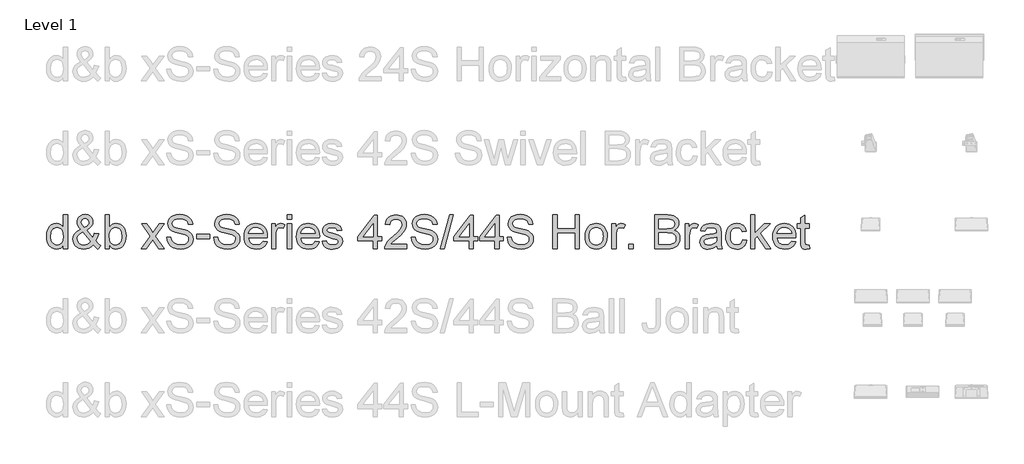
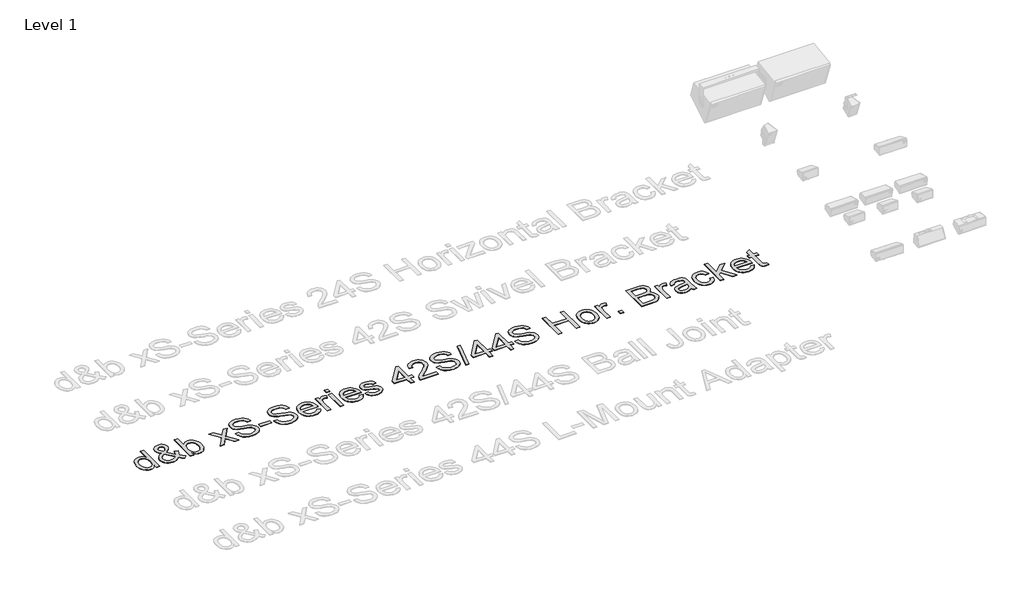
# One storey, part 29 of 55: 1 proxy.
"""IFC4 building model written with IfcOpenShell, lengths in millimetres."""

from ifc_helpers import new_model, si_unit, origin, origin_with_axes, place, context, project, spatial, polyline, outline, extrude, element, save

model = new_model("IFC4")

# Units and contexts
model_context = context("Model", 3, world=origin())
ifc_project = project(units=[si_unit("LENGTHUNIT", "METRE", prefix="MILLI")], contexts=[model_context])

# Site, building, storey
site = spatial("IfcSite", under=ifc_project)
building = spatial("IfcBuilding", under=site)
storey = spatial("IfcBuildingStorey", under=building, Name="Level 1", Elevation=0.0)

# Proxy
placement = place(None, origin())
element("IfcBuildingElementProxy", 1, Name="400mm Arial", ObjectType="400mm Arial", at=placement, inside=storey, context=model_context, shape_type="SweptSolid", body=[
    extrude(outline(polyline([(-20879.8211974, -6648.6945164), (-20879.8211974, -6601.3113154), (-20894.8491769, -6624.7883181), (-20913.0532043, -6641.5576057), (-20934.4332796, -6651.6191783), (-20958.9894028, -6654.9730358), (-20991.4611202, -6650.1169935), (-21021.1859854, -6635.5488665), (-21046.3491139, -6612.2864616), (-21065.1356211, -6581.3475858), (-21076.8342686, -6543.9830379), (-21080.7338177, -6501.4436165), (-21077.1408369, -6459.4314926), (-21066.3618944, -6421.4905962), (-21048.4092531, -6389.7791682), (-21023.2951755, -6366.4554497), (-20992.9203855, -6352.1080519), (-20959.1856065, -6347.325586), (-20934.6110892, -6350.7468885), (-20912.8815261, -6361.0107962), (-20894.4629008, -6376.7438829), (-20879.8211974, -6396.5727224), (-20879.8211974, -6246.8692758), (-20829.5930424, -6246.8692758), (-20829.5930424, -6648.6945164), (-20879.8211974, -6648.6945164)]), holes=[polyline([(-21030.5056627, -6501.2474128), (-21029.089317, -6525.6042665), (-21024.8402799, -6546.6808392), (-21017.7585515, -6564.4771307), (-21007.8441318, -6578.9931411), (-20983.1469871, -6598.3069458), (-20969.2717046, -6603.135397), (-20954.3786151, -6604.7448807), (-20939.415015, -6603.2089734), (-20925.6225058, -6598.6012514), (-20901.5507606, -6580.1703635), (-20892.0440767, -6566.2613584), (-20885.2535882, -6549.1088603), (-20879.8211974, -6505.0733855), (-20885.3516901, -6456.9298951), (-20892.2648059, -6438.3947739), (-20901.9431681, -6423.5507354), (-20913.6448812, -6412.1770504), (-20926.6280499, -6404.0529896), (-20940.8926743, -6399.1785532), (-20956.4387543, -6397.5537411), (-20971.6261493, -6399.1141738), (-20985.5014319, -6403.7954722), (-20998.064602, -6411.5976362), (-21009.3156597, -6422.5206658), (-21018.586286, -6436.8036843), (-21025.2081619, -6454.6858149), (-21030.5056627, -6501.2474128)])]), origin_with_axes(), (0.0, 0.0, 1.0), 5.0),
    extrude(outline(polyline([(-20523.809528, -6599.0549725), (-20549.3405384, -6623.5191252), (-20577.0788409, -6640.99352), (-20607.0734862, -6651.4781569), (-20639.3735254, -6654.9730358), (-20668.6814577, -6652.3855991), (-20694.8010793, -6644.623289), (-20717.7323904, -6631.6861055), (-20737.4753908, -6613.5740486), (-20750.308341, -6596.2038871), (-20759.4747341, -6577.8404442), (-20764.9745699, -6558.4837198), (-20766.8078485, -6538.1337141), (-20760.9094739, -6502.9396699), (-20743.2143499, -6471.3263438), (-20713.796053, -6443.3182613), (-20672.7281596, -6418.9399477), (-20694.6416638, -6390.5885086), (-20707.7995765, -6368.1231814), (-20714.3846642, -6348.9442668), (-20716.5796934, -6330.4520651), (-20714.8506481, -6312.8979626), (-20709.6635119, -6296.5333452), (-20701.018285, -6281.3582129), (-20688.9149674, -6267.3725657), (-20674.1935562, -6255.6555241), (-20657.6940487, -6247.2862088), (-20639.4164449, -6242.2646195), (-20619.3607448, -6240.5907564), (-20600.212487, -6242.1910431), (-20582.8913764, -6246.9919032), (-20567.397413, -6254.9933366), (-20553.7305969, -6266.1953433), (-20542.5715097, -6279.6414302), (-20534.6007332, -6294.3751041), (-20529.8182672, -6310.396365), (-20528.2241119, -6327.7052129), (-20532.9452642, -6355.68877), (-20547.108721, -6381.563137), (-20570.7144823, -6405.3283139), (-20603.7625482, -6426.9843007), (-20531.069066, -6517.5323224), (-20518.6837055, -6491.6579554), (-20509.3885538, -6461.9085647), (-20459.1603987, -6472.7978718), (-20474.6114425, -6519.3226815), (-20494.6732739, -6555.4977443), (-20466.1256311, -6588.8033276), (-20434.0463211, -6616.3209009), (-20471.7174374, -6654.9730358), (-20497.3465498, -6631.52669), (-20523.809528, -6599.0549725)]), holes=[polyline([(-20557.4584678, -6562.8553842), (-20647.1235727, -6450.9211558), (-20681.3733865, -6472.7733463), (-20702.305872, -6493.0068561), (-20713.0112381, -6512.3329235), (-20716.5796934, -6531.4627873), (-20711.6991256, -6555.1543878), (-20697.0574222, -6579.7289051), (-20686.2784798, -6590.6733944), (-20673.4639236, -6598.4908868), (-20658.6137537, -6603.1813823), (-20641.7279702, -6604.7448807), (-20619.0051256, -6601.8263502), (-20595.5710425, -6593.0707588), (-20574.1480476, -6579.6798541), (-20557.4584678, -6562.8553842)]), polyline([(-20629.1709314, -6395.2973981), (-20602.9041569, -6378.6323438), (-20587.8700461, -6364.1500559), (-20580.8067117, -6350.0601755), (-20578.452267, -6334.5723435), (-20581.5547385, -6317.0243723), (-20590.862153, -6303.0325938), (-20604.829406, -6293.8723321), (-20621.9113933, -6290.8189115), (-20639.3612626, -6293.8478066), (-20653.6473468, -6302.9344919), (-20663.1754905, -6316.3867102), (-20666.3515384, -6332.5122043), (-20662.0350563, -6350.9063041), (-20648.9875082, -6371.360543), (-20629.1709314, -6395.2973981)])]), origin_with_axes(), (0.0, 0.0, 1.0), 5.0),
    extrude(outline(polyline([(-20333.590011, -6648.6945164), (-20383.8181661, -6648.6945164), (-20383.8181661, -6246.8692758), (-20333.590011, -6246.8692758), (-20333.590011, -6395.8860093), (-20317.0721094, -6374.6408241), (-20298.4204923, -6359.4656918), (-20277.6351595, -6350.3606124), (-20254.7161112, -6347.325586), (-20228.8417442, -6350.0601755), (-20204.3898543, -6358.263944), (-20182.758393, -6371.4218567), (-20165.3453119, -6389.0188788), (-20151.6968898, -6410.883332), (-20141.3594058, -6436.8435381), (-20134.8478945, -6465.8203766), (-20132.6773907, -6496.734727), (-20134.9245365, -6532.4070178), (-20141.6659741, -6563.7873519), (-20152.9017034, -6590.8757295), (-20168.6317244, -6613.6721505), (-20187.5132678, -6631.7412878), (-20208.2035643, -6644.6478145), (-20230.702614, -6652.3917305), (-20255.0104168, -6654.9730358), (-20278.6836232, -6651.6437038), (-20299.671291, -6641.6557076), (-20317.9734203, -6625.0090473), (-20333.590011, -6601.7037229), (-20333.590011, -6648.6945164)]), holes=[polyline([(-20333.590011, -6499.0891717), (-20330.1564457, -6540.9786682), (-20319.8557498, -6569.3301073), (-20307.6849872, -6584.8240707), (-20293.5399244, -6595.8911874), (-20277.4205617, -6602.5314574), (-20259.3268989, -6604.7448807), (-20244.3050508, -6603.1139372), (-20230.3377977, -6598.2211067), (-20217.4251396, -6590.0663891), (-20205.5670767, -6578.6497845), (-20195.6526569, -6564.0019498), (-20188.5709285, -6546.1535416), (-20184.3218914, -6525.1045601), (-20182.9055458, -6500.8550053), (-20188.3379366, -6454.8942814), (-20195.1284251, -6437.1010555), (-20204.6351089, -6422.7659205), (-20216.0670419, -6411.735592), (-20228.6332778, -6403.8567859), (-20242.3338164, -6399.1295023), (-20257.1686579, -6397.5537411), (-20272.190506, -6399.1846846), (-20286.1577591, -6404.0775151), (-20299.0704171, -6412.2322327), (-20310.9284801, -6423.6488372), (-20320.8428999, -6438.1495192), (-20327.9246283, -6455.556469), (-20332.1736653, -6475.8696865), (-20333.590011, -6499.0891717)])]), origin_with_axes(), (0.0, 0.0, 1.0), 5.0),
    extrude(outline(polyline([(-19950.6003285, -6648.6945164), (-19843.2768878, -6500.2663941), (-19944.3218092, -6353.6041054), (-19884.0872638, -6353.6041054), (-19835.3306367, -6424.3355503), (-19812.4729021, -6457.5920827), (-19792.6563253, -6430.3197641), (-19737.1306695, -6353.6041054), (-19676.6999204, -6353.6041054), (-19782.8461387, -6500.364496), (-19680.623995, -6648.6945164), (-19740.9566422, -6648.6945164), (-19802.5646137, -6559.4218189), (-19813.7482263, -6543.0388074), (-19890.1695795, -6648.6945164), (-19950.6003285, -6648.6945164)])), origin_with_axes(), (0.0, 0.0, 1.0), 5.0),
    extrude(outline(polyline([(-19649.2313981, -6510.56709), (-19599.003243, -6510.56709), (-19593.2397584, -6538.4402825), (-19582.8164352, -6560.844296), (-19566.556051, -6578.6252591), (-19543.2813835, -6592.6293004), (-19514.8318425, -6601.7159856), (-19483.0468381, -6604.7448807), (-19455.063281, -6602.4517496), (-19430.5623402, -6595.5723563), (-19410.7089752, -6584.6830493), (-19396.6681457, -6570.3601769), (-19388.3172244, -6553.9158517), (-19385.533584, -6536.6621862), (-19387.6182486, -6519.849979), (-19393.8722425, -6505.3186402), (-19406.5764341, -6492.9210169), (-19428.0116917, -6482.5099565), (-19501.1466323, -6463.3310418), (-19549.1552327, -6450.639113), (-19579.8733793, -6438.5603208), (-19604.8770922, -6421.6622745), (-19622.5967416, -6401.1835101), (-19633.1549549, -6377.565486), (-19636.6743593, -6351.2496606), (-19632.3210891, -6321.8313637), (-19619.2612782, -6294.3996296), (-19597.8382834, -6271.1494875), (-19568.395461, -6254.2759667), (-19533.054264, -6244.012059), (-19493.9361452, -6240.5907564), (-19451.5561394, -6244.1714745), (-19414.4736342, -6254.9136288), (-19384.013005, -6272.59649), (-19361.4986269, -6296.999329), (-19347.249331, -6326.6015669), (-19341.5839483, -6359.8826247), (-19391.8121033, -6359.8826247), (-19401.0336787, -6329.9125049), (-19409.3968627, -6318.0544419), (-19420.2616443, -6308.2810436), (-19450.3053406, -6295.1844445), (-19491.9741079, -6290.8189115), (-19534.6238939, -6295.1353936), (-19550.9271976, -6300.5309962), (-19563.8827752, -6308.0848398), (-19580.805347, -6327.1411272), (-19586.4462043, -6349.7781326), (-19582.4485532, -6369.0796746), (-19570.4556002, -6384.6042948), (-19542.1041611, -6398.4857088), (-19488.4424407, -6412.6614283), (-19433.0639377, -6426.1259093), (-19399.5621507, -6437.8736077), (-19370.9286687, -6456.0960292), (-19350.9526764, -6478.5858819), (-19339.2172408, -6505.097911), (-19335.3054289, -6535.3868619), (-19339.805852, -6566.3502632), (-19353.3071212, -6595.4742545), (-19375.2574136, -6620.5392811), (-19405.1049061, -6639.3257883), (-19440.9979261, -6651.0612239), (-19481.0848008, -6654.9730358), (-19530.2951491, -6650.7546556), (-19570.7989567, -6638.099515), (-19603.0622077, -6616.958563), (-19627.5508858, -6587.2827487), (-19643.2717098, -6551.1322113), (-19649.2313981, -6510.56709)])), origin_with_axes(), (0.0, 0.0, 1.0), 5.0),
    extrude(outline(polyline([(-19291.3557932, -6529.4026481), (-19291.3557932, -6479.174493), (-19134.3928086, -6479.174493), (-19134.3928086, -6529.4026481), (-19291.3557932, -6529.4026481)])), origin_with_axes(), (0.0, 0.0, 1.0), 5.0),
    extrude(outline(polyline([(-19090.4431729, -6510.56709), (-19040.2150178, -6510.56709), (-19034.4515332, -6538.4402825), (-19024.02821, -6560.844296), (-19007.7678258, -6578.6252591), (-18984.4931583, -6592.6293004), (-18956.0436173, -6601.7159856), (-18924.2586129, -6604.7448807), (-18896.2750558, -6602.4517496), (-18871.774115, -6595.5723563), (-18851.9207499, -6584.6830493), (-18837.8799205, -6570.3601769), (-18829.5289992, -6553.9158517), (-18826.7453587, -6536.6621862), (-18828.8300234, -6519.849979), (-18835.0840173, -6505.3186402), (-18847.7882089, -6492.9210169), (-18869.2234665, -6482.5099565), (-18942.3584071, -6463.3310418), (-18990.3670075, -6450.639113), (-19021.0851541, -6438.5603208), (-19046.088867, -6421.6622745), (-19063.8085164, -6401.1835101), (-19074.3667297, -6377.565486), (-19077.8861341, -6351.2496606), (-19073.5328638, -6321.8313637), (-19060.473053, -6294.3996296), (-19039.0500582, -6271.1494875), (-19009.6072358, -6254.2759667), (-18974.2660388, -6244.012059), (-18935.14792, -6240.5907564), (-18892.7679141, -6244.1714745), (-18855.685409, -6254.9136288), (-18825.2247798, -6272.59649), (-18802.7104017, -6296.999329), (-18788.4611058, -6326.6015669), (-18782.7957231, -6359.8826247), (-18833.0238781, -6359.8826247), (-18842.2454535, -6329.9125049), (-18850.6086375, -6318.0544419), (-18861.4734191, -6308.2810436), (-18891.5171154, -6295.1844445), (-18933.1858827, -6290.8189115), (-18975.8356687, -6295.1353936), (-18992.1389724, -6300.5309962), (-19005.09455, -6308.0848398), (-19022.0171218, -6327.1411272), (-19027.657979, -6349.7781326), (-19023.660328, -6369.0796746), (-19011.667375, -6384.6042948), (-18983.3159359, -6398.4857088), (-18929.6542155, -6412.6614283), (-18874.2757125, -6426.1259093), (-18840.7739255, -6437.8736077), (-18812.1404435, -6456.0960292), (-18792.1644512, -6478.5858819), (-18780.4290156, -6505.097911), (-18776.5172037, -6535.3868619), (-18781.0176267, -6566.3502632), (-18794.518896, -6595.4742545), (-18816.4691883, -6620.5392811), (-18846.3166809, -6639.3257883), (-18882.2097009, -6651.0612239), (-18922.2965756, -6654.9730358), (-18971.5069238, -6650.7546556), (-19012.0107315, -6638.099515), (-19044.2739825, -6616.958563), (-19068.7626606, -6587.2827487), (-19084.4834846, -6551.1322113), (-19090.4431729, -6510.56709)])), origin_with_axes(), (0.0, 0.0, 1.0), 5.0),
    extrude(outline(polyline([(-18500.850962, -6560.795245), (-18451.6038255, -6567.0737644), (-18459.1546035, -6586.7983707), (-18469.3480004, -6604.180795), (-18482.1840164, -6619.2210372), (-18497.6626513, -6631.9190974), (-18515.6244897, -6642.0051955), (-18535.9101161, -6649.2095512), (-18583.4527326, -6654.9730358), (-18614.618469, -6652.4867667), (-18642.3874282, -6645.0279592), (-18666.7596104, -6632.5966135), (-18687.7350155, -6615.1927294), (-18704.602405, -6593.300685), (-18716.6505403, -6567.4048582), (-18723.8794215, -6537.5052491), (-18726.2890486, -6503.6018575), (-18723.8548961, -6468.5488348), (-18716.5524385, -6437.6528785), (-18704.3816758, -6410.9139888), (-18687.342608, -6388.3321657), (-18666.4223852, -6370.3917871), (-18642.6081574, -6357.5772309), (-18615.8999246, -6349.8884972), (-18586.2976867, -6347.325586), (-18557.6488763, -6349.8823658), (-18531.7407868, -6357.5527054), (-18508.5734182, -6370.3366048), (-18488.1467704, -6388.2340638), (-18471.472519, -6410.766836), (-18459.5623394, -6437.4566748), (-18452.4162316, -6468.3035801), (-18450.0341957, -6503.3075519), (-18450.3285013, -6516.8456094), (-18676.0608935, -6516.8456094), (-18673.1515601, -6536.8890467), (-18667.3666157, -6554.4431493), (-18658.7060604, -6569.507917), (-18647.1698942, -6582.0833498), (-18633.3957791, -6591.9977696), (-18618.0213774, -6599.079498), (-18582.4717139, -6604.7448807), (-18555.7389556, -6602.1206558), (-18533.2245775, -6594.2479811), (-18514.9285796, -6580.6363473), (-18500.850962, -6560.795245)]), holes=[polyline([(-18676.0608935, -6466.6174543), (-18500.2623508, -6466.6174543), (-18507.0559049, -6440.0808997), (-18520.3732332, -6421.0981887), (-18534.0707061, -6410.7974929), (-18549.65664, -6403.439853), (-18567.1310348, -6399.025269), (-18586.4938904, -6397.5537411), (-18620.3512967, -6402.2503679), (-18648.3471166, -6416.3402483), (-18667.8080741, -6438.3028034), (-18676.0608935, -6466.6174543)])]), origin_with_axes(), (0.0, 0.0, 1.0), 5.0),
    extrude(outline(polyline([(-18399.8060406, -6648.6945164), (-18399.8060406, -6353.6041054), (-18355.8564049, -6353.6041054), (-18355.8564049, -6397.2594355), (-18339.6205462, -6371.9491542), (-18324.6600117, -6357.0376707), (-18309.6504263, -6349.7536071), (-18293.2674148, -6347.325586), (-18268.2514391, -6351.2006097), (-18242.843056, -6362.8256807), (-18259.618475, -6407.8544369), (-18277.2768108, -6400.128915), (-18294.9351465, -6397.5537411), (-18309.9324692, -6400.0308132), (-18323.3356365, -6407.4620295), (-18334.1636299, -6419.2833042), (-18341.4354307, -6434.9305518), (-18347.5422718, -6462.9876853), (-18349.5778855, -6493.5954673), (-18349.5778855, -6648.6945164), (-18399.8060406, -6648.6945164)])), origin_with_axes(), (0.0, 0.0, 1.0), 5.0),
    extrude(outline(polyline([(-18211.4504591, -6297.0974309), (-18211.4504591, -6246.8692758), (-18161.222304, -6246.8692758), (-18161.222304, -6297.0974309), (-18211.4504591, -6297.0974309)])), origin_with_axes(), (0.0, 0.0, 1.0), 5.0),
    extrude(outline(polyline([(-18211.4504591, -6648.6945164), (-18211.4504591, -6353.6041054), (-18161.222304, -6353.6041054), (-18161.222304, -6648.6945164), (-18211.4504591, -6648.6945164)])), origin_with_axes(), (0.0, 0.0, 1.0), 5.0),
    extrude(outline(polyline([(-17879.2775429, -6560.795245), (-17830.0304065, -6567.0737644), (-17837.5811844, -6586.7983707), (-17847.7745814, -6604.180795), (-17860.6105973, -6619.2210372), (-17876.0892323, -6631.9190974), (-17894.0510707, -6642.0051955), (-17914.336697, -6649.2095512), (-17961.8793136, -6654.9730358), (-17993.0450499, -6652.4867667), (-18020.8140092, -6645.0279592), (-18045.1861914, -6632.5966135), (-18066.1615965, -6615.1927294), (-18083.0289859, -6593.300685), (-18095.0771213, -6567.4048582), (-18102.3060025, -6537.5052491), (-18104.7156295, -6503.6018575), (-18102.281477, -6468.5488348), (-18094.9790194, -6437.6528785), (-18082.8082567, -6410.9139888), (-18065.769189, -6388.3321657), (-18044.8489662, -6370.3917871), (-18021.0347384, -6357.5772309), (-17994.3265055, -6349.8884972), (-17964.7242676, -6347.325586), (-17936.0754573, -6349.8823658), (-17910.1673678, -6357.5527054), (-17886.9999991, -6370.3366048), (-17866.5733513, -6388.2340638), (-17849.8990999, -6410.766836), (-17837.9889203, -6437.4566748), (-17830.8428126, -6468.3035801), (-17828.4607766, -6503.3075519), (-17828.7550822, -6516.8456094), (-18054.4874745, -6516.8456094), (-18051.578141, -6536.8890467), (-18045.7931967, -6554.4431493), (-18037.1326413, -6569.507917), (-18025.5964751, -6582.0833498), (-18011.8223601, -6591.9977696), (-17996.4479584, -6599.079498), (-17960.8982949, -6604.7448807), (-17934.1655366, -6602.1206558), (-17911.6511585, -6594.2479811), (-17893.3551606, -6580.6363473), (-17879.2775429, -6560.795245)]), holes=[polyline([(-18054.4874745, -6466.6174543), (-17878.6889317, -6466.6174543), (-17885.4824859, -6440.0808997), (-17898.7998141, -6421.0981887), (-17912.4972871, -6410.7974929), (-17928.0832209, -6403.439853), (-17945.5576157, -6399.025269), (-17964.9204714, -6397.5537411), (-17998.7778777, -6402.2503679), (-18026.7736975, -6416.3402483), (-18046.234655, -6438.3028034), (-18054.4874745, -6466.6174543)])]), origin_with_axes(), (0.0, 0.0, 1.0), 5.0),
    extrude(outline(polyline([(-17797.0681797, -6560.795245), (-17746.8400246, -6554.5167257), (-17738.918299, -6576.0010342), (-17723.5898825, -6591.7954345), (-17700.7566734, -6601.5075192), (-17670.3205696, -6604.7448807), (-17640.2523479, -6601.7772993), (-17619.1113959, -6592.874555), (-17606.6034081, -6579.9741597), (-17602.4340788, -6565.0136253), (-17606.6279335, -6552.2113318), (-17619.2094978, -6542.4501962), (-17670.9091808, -6528.1273239), (-17746.545719, -6503.5528066), (-17765.6878455, -6491.2042343), (-17779.5569967, -6474.858011), (-17787.9814944, -6455.556469), (-17790.7896603, -6434.3419406), (-17788.5333174, -6414.880983), (-17781.7642887, -6396.9160789), (-17771.0957109, -6381.1584668), (-17757.1407205, -6368.3193852), (-17725.2085633, -6353.4569526), (-17704.3251287, -6348.8584276), (-17681.9946916, -6347.325586), (-17649.302245, -6349.7903953), (-17620.8772295, -6357.1848234), (-17598.0194949, -6368.785369), (-17582.0288908, -6383.8685308), (-17571.4338893, -6403.5502176), (-17564.7629625, -6428.946338), (-17614.9911176, -6435.2248574), (-17621.3309506, -6419.4181943), (-17633.8757267, -6407.5110804), (-17652.748073, -6400.0430759), (-17678.070617, -6397.5537411), (-17706.9125654, -6399.9327113), (-17726.140531, -6407.069622), (-17736.9562617, -6417.3703179), (-17740.5615053, -6429.2406436), (-17734.5772915, -6443.8578215), (-17715.8398352, -6454.9433323), (-17672.5769125, -6465.6364356), (-17598.8533607, -6489.2789852), (-17579.3801404, -6500.5852252), (-17564.6158097, -6516.0607944), (-17555.3083952, -6535.7547439), (-17552.2059237, -6559.7161245), (-17555.8479555, -6584.4868455), (-17566.7740507, -6607.7860386), (-17584.5672766, -6627.7865564), (-17608.8107, -6642.6612517), (-17638.0941069, -6651.8950898), (-17671.0072827, -6654.9730358), (-17698.040478, -6653.4892451), (-17721.6523707, -6649.037873), (-17741.8429609, -6641.6189194), (-17758.6122485, -6631.2323844), (-17772.3097214, -6617.9273189), (-17783.2848676, -6601.7527738), (-17791.5376871, -6582.7087492), (-17797.0681797, -6560.795245)])), origin_with_axes(), (0.0, 0.0, 1.0), 5.0),
    extrude(outline(polyline([(-17188.0517994, -6648.6945164), (-17188.0517994, -6554.5167257), (-17370.1288616, -6554.5167257), (-17370.1288616, -6504.2885706), (-17175.4947607, -6253.1477952), (-17137.8236444, -6253.1477952), (-17137.8236444, -6504.2885706), (-17087.5954893, -6504.2885706), (-17087.5954893, -6554.5167257), (-17137.8236444, -6554.5167257), (-17137.8236444, -6648.6945164), (-17188.0517994, -6648.6945164)]), holes=[polyline([(-17188.0517994, -6504.2885706), (-17188.0517994, -6349.0914196), (-17308.3246864, -6504.2885706), (-17188.0517994, -6504.2885706)])]), origin_with_axes(), (0.0, 0.0, 1.0), 5.0),
    extrude(outline(polyline([(-16786.2265588, -6598.4663614), (-16786.2265588, -6648.6945164), (-17049.924373, -6648.6945164), (-17048.820727, -6631.0116552), (-17044.5287704, -6614.0645579), (-17032.1311471, -6587.0007058), (-17013.9700393, -6560.7461941), (-16987.7155276, -6533.2654091), (-16951.0376927, -6502.522737), (-16896.8486748, -6454.3792466), (-16864.3646946, -6418.8418458), (-16848.1410986, -6389.9998974), (-16842.7332333, -6361.9427639), (-16847.846793, -6336.7918982), (-16863.1874722, -6315.8839381), (-16886.7687081, -6301.7940577), (-16916.6039379, -6297.0974309), (-16947.9352212, -6301.6836931), (-16972.2767465, -6315.4424797), (-16987.9853077, -6337.2946702), (-16993.4176985, -6366.1611441), (-17043.6458536, -6359.8826247), (-17039.3263058, -6333.9530755), (-17031.4689596, -6311.2976759), (-17020.0738147, -6291.9164261), (-17005.1408714, -6275.8093261), (-16987.0134861, -6263.1480541), (-16966.0350153, -6254.1042884), (-16942.2054591, -6248.678029), (-16915.5248174, -6246.8692758), (-16888.6050524, -6248.8803641), (-16864.6467375, -6254.9136288), (-16843.6498726, -6264.96907), (-16825.6144578, -6279.0466877), (-16811.1291042, -6296.1041495), (-16800.7824231, -6315.0991232), (-16794.5744144, -6336.0316087), (-16792.5050782, -6358.9016061), (-16794.7368957, -6382.9243004), (-16801.432348, -6406.5300617), (-16813.3149364, -6430.5404933), (-16831.1081622, -6455.7771982), (-16859.4718641, -6485.9067336), (-16903.0658805, -6524.5956567), (-16960.8478792, -6572.9108254), (-16983.5094101, -6598.4663614), (-16786.2265588, -6598.4663614)])), origin_with_axes(), (0.0, 0.0, 1.0), 5.0),
    extrude(outline(polyline([(-16735.9984038, -6510.56709), (-16685.7702487, -6510.56709), (-16680.0067641, -6538.4402825), (-16669.5834409, -6560.844296), (-16653.3230567, -6578.6252591), (-16630.0483891, -6592.6293004), (-16601.5988482, -6601.7159856), (-16569.8138438, -6604.7448807), (-16541.8302867, -6602.4517496), (-16517.3293458, -6595.5723563), (-16497.4759808, -6584.6830493), (-16483.4351513, -6570.3601769), (-16475.08423, -6553.9158517), (-16472.3005896, -6536.6621862), (-16474.3852543, -6519.849979), (-16480.6392482, -6505.3186402), (-16493.3434397, -6492.9210169), (-16514.7786973, -6482.5099565), (-16587.913638, -6463.3310418), (-16635.9222383, -6450.639113), (-16666.6403849, -6438.5603208), (-16691.6440979, -6421.6622745), (-16709.3637473, -6401.1835101), (-16719.9219606, -6377.565486), (-16723.441365, -6351.2496606), (-16719.0880947, -6321.8313637), (-16706.0282839, -6294.3996296), (-16684.605289, -6271.1494875), (-16655.1624667, -6254.2759667), (-16619.8212697, -6244.012059), (-16580.7031509, -6240.5907564), (-16538.323145, -6244.1714745), (-16501.2406399, -6254.9136288), (-16470.7800107, -6272.59649), (-16448.2656326, -6296.999329), (-16434.0163367, -6326.6015669), (-16428.3509539, -6359.8826247), (-16478.579109, -6359.8826247), (-16487.8006843, -6329.9125049), (-16496.1638684, -6318.0544419), (-16507.02865, -6308.2810436), (-16537.0723462, -6295.1844445), (-16578.7411136, -6290.8189115), (-16621.3908995, -6295.1353936), (-16637.6942033, -6300.5309962), (-16650.6497809, -6308.0848398), (-16667.5723527, -6327.1411272), (-16673.2132099, -6349.7781326), (-16669.2155589, -6369.0796746), (-16657.2226059, -6384.6042948), (-16628.8711668, -6398.4857088), (-16575.2094464, -6412.6614283), (-16519.8309434, -6426.1259093), (-16486.3291564, -6437.8736077), (-16457.6956744, -6456.0960292), (-16437.7196821, -6478.5858819), (-16425.9842464, -6505.097911), (-16422.0724345, -6535.3868619), (-16426.5728576, -6566.3502632), (-16440.0741268, -6595.4742545), (-16462.0244192, -6620.5392811), (-16491.8719118, -6639.3257883), (-16527.7649318, -6651.0612239), (-16567.8518065, -6654.9730358), (-16617.0621547, -6650.7546556), (-16657.5659624, -6638.099515), (-16689.8292134, -6616.958563), (-16714.3178915, -6587.2827487), (-16730.0387154, -6551.1322113), (-16735.9984038, -6510.56709)])), origin_with_axes(), (0.0, 0.0, 1.0), 5.0),
    extrude(outline(polyline([(-16390.6798376, -6648.6945164), (-16277.6664887, -6246.8692758), (-16232.1472232, -6246.8692758), (-16345.2586739, -6648.6945164), (-16390.6798376, -6648.6945164)])), origin_with_axes(), (0.0, 0.0, 1.0), 5.0),
    extrude(outline(polyline([(-16045.3612715, -6648.6945164), (-16045.3612715, -6554.5167257), (-16227.4383336, -6554.5167257), (-16227.4383336, -6504.2885706), (-16032.8042327, -6253.1477952), (-15995.1331164, -6253.1477952), (-15995.1331164, -6504.2885706), (-15944.9049613, -6504.2885706), (-15944.9049613, -6554.5167257), (-15995.1331164, -6554.5167257), (-15995.1331164, -6648.6945164), (-16045.3612715, -6648.6945164)]), holes=[polyline([(-16045.3612715, -6504.2885706), (-16045.3612715, -6349.0914196), (-16165.6341584, -6504.2885706), (-16045.3612715, -6504.2885706)])]), origin_with_axes(), (0.0, 0.0, 1.0), 5.0),
    extrude(outline(polyline([(-15737.7138216, -6648.6945164), (-15737.7138216, -6554.5167257), (-15919.7908838, -6554.5167257), (-15919.7908838, -6504.2885706), (-15725.1567829, -6253.1477952), (-15687.4856666, -6253.1477952), (-15687.4856666, -6504.2885706), (-15637.2575115, -6504.2885706), (-15637.2575115, -6554.5167257), (-15687.4856666, -6554.5167257), (-15687.4856666, -6648.6945164), (-15737.7138216, -6648.6945164)]), holes=[polyline([(-15737.7138216, -6504.2885706), (-15737.7138216, -6349.0914196), (-15857.9867086, -6504.2885706), (-15737.7138216, -6504.2885706)])]), origin_with_axes(), (0.0, 0.0, 1.0), 5.0),
    extrude(outline(polyline([(-15593.3078758, -6510.56709), (-15543.0797207, -6510.56709), (-15537.3162361, -6538.4402825), (-15526.8929129, -6560.844296), (-15510.6325288, -6578.6252591), (-15487.3578612, -6592.6293004), (-15458.9083202, -6601.7159856), (-15427.1233159, -6604.7448807), (-15399.1397588, -6602.4517496), (-15374.6388179, -6595.5723563), (-15354.7854529, -6584.6830493), (-15340.7446234, -6570.3601769), (-15332.3937021, -6553.9158517), (-15329.6100617, -6536.6621862), (-15331.6947263, -6519.849979), (-15337.9487202, -6505.3186402), (-15350.6529118, -6492.9210169), (-15372.0881694, -6482.5099565), (-15445.22311, -6463.3310418), (-15493.2317104, -6450.639113), (-15523.949857, -6438.5603208), (-15548.9535699, -6421.6622745), (-15566.6732194, -6401.1835101), (-15577.2314326, -6377.565486), (-15580.750837, -6351.2496606), (-15576.3975668, -6321.8313637), (-15563.3377559, -6294.3996296), (-15541.9147611, -6271.1494875), (-15512.4719387, -6254.2759667), (-15477.1307417, -6244.012059), (-15438.0126229, -6240.5907564), (-15395.6326171, -6244.1714745), (-15358.550112, -6254.9136288), (-15328.0894827, -6272.59649), (-15305.5751046, -6296.999329), (-15291.3258087, -6326.6015669), (-15285.660426, -6359.8826247), (-15335.888581, -6359.8826247), (-15345.1101564, -6329.9125049), (-15353.4733404, -6318.0544419), (-15364.338122, -6308.2810436), (-15394.3818183, -6295.1844445), (-15436.0505856, -6290.8189115), (-15478.7003716, -6295.1353936), (-15495.0036753, -6300.5309962), (-15507.9592529, -6308.0848398), (-15524.8818247, -6327.1411272), (-15530.522682, -6349.7781326), (-15526.5250309, -6369.0796746), (-15514.5320779, -6384.6042948), (-15486.1806388, -6398.4857088), (-15432.5189184, -6412.6614283), (-15377.1404154, -6426.1259093), (-15343.6386284, -6437.8736077), (-15315.0051465, -6456.0960292), (-15295.0291541, -6478.5858819), (-15283.2937185, -6505.097911), (-15279.3819066, -6535.3868619), (-15283.8823297, -6566.3502632), (-15297.3835989, -6595.4742545), (-15319.3338913, -6620.5392811), (-15349.1813838, -6639.3257883), (-15385.0744038, -6651.0612239), (-15425.1612785, -6654.9730358), (-15474.3716268, -6650.7546556), (-15514.8754344, -6638.099515), (-15547.1386854, -6616.958563), (-15571.6273636, -6587.2827487), (-15587.3481875, -6551.1322113), (-15593.3078758, -6510.56709)])), origin_with_axes(), (0.0, 0.0, 1.0), 5.0),
    extrude(outline(polyline([(-15047.0766894, -6648.6945164), (-15047.0766894, -6246.8692758), (-14996.8485343, -6246.8692758), (-14996.8485343, -6410.1107798), (-14783.3788752, -6410.1107798), (-14783.3788752, -6246.8692758), (-14733.1507201, -6246.8692758), (-14733.1507201, -6648.6945164), (-14783.3788752, -6648.6945164), (-14783.3788752, -6460.3389349), (-14996.8485343, -6460.3389349), (-14996.8485343, -6648.6945164), (-15047.0766894, -6648.6945164)])), origin_with_axes(), (0.0, 0.0, 1.0), 5.0),
    extrude(outline(polyline([(-14664.0870069, -6501.1493109), (-14661.3708115, -6462.932503), (-14653.2222253, -6430.000933), (-14639.6412483, -6402.3546011), (-14620.6278806, -6379.9935072), (-14601.4857541, -6365.7012916), (-14580.3570648, -6355.4925663), (-14557.2418128, -6349.3673311), (-14532.139998, -6347.325586), (-14504.4292867, -6349.8118551), (-14479.3734571, -6357.2706626), (-14456.9725093, -6369.7020083), (-14437.2264432, -6387.1058924), (-14421.1101462, -6408.8937036), (-14409.5985054, -6434.4768306), (-14402.6915209, -6463.8552736), (-14400.3891928, -6497.0290325), (-14404.4604202, -6547.7722224), (-14416.6741024, -6586.3998319), (-14436.6746202, -6615.3276195), (-14464.1063543, -6636.9713435), (-14496.6884364, -6650.4726127), (-14532.139998, -6654.9730358), (-14560.2553795, -6652.4959637), (-14585.544201, -6645.0647474), (-14608.0064624, -6632.6793869), (-14627.6421639, -6615.3398822), (-14643.5867827, -6593.3405389), (-14654.9757962, -6566.9756626), (-14661.8092042, -6536.2452532), (-14664.0870069, -6501.1493109)]), holes=[polyline([(-14613.8588518, -6501.051209), (-14612.405718, -6525.4141942), (-14608.0463163, -6546.5091609), (-14600.7806469, -6564.3361093), (-14590.6087098, -6578.8950392), (-14578.235612, -6590.2043449), (-14564.3664608, -6598.2824204), (-14549.0012561, -6603.1292656), (-14532.139998, -6604.7448807), (-14515.364579, -6603.1200686), (-14500.060688, -6598.2456322), (-14486.228325, -6590.1215714), (-14473.8674899, -6578.7478864), (-14463.6955528, -6564.0448693), (-14456.4298834, -6545.9328124), (-14452.0704817, -6524.4117157), (-14450.6173479, -6499.4815792), (-14452.0796788, -6475.8911462), (-14456.4666716, -6455.3480025), (-14463.7783262, -6437.8521479), (-14474.0146427, -6423.4035826), (-14486.421463, -6412.0942769), (-14500.244629, -6404.0162014), (-14515.4841407, -6399.1693561), (-14532.139998, -6397.5537411), (-14549.0012561, -6399.1632248), (-14564.3664608, -6403.991676), (-14578.235612, -6412.0390946), (-14590.6087098, -6423.3054807), (-14600.7806469, -6437.8214911), (-14608.0463163, -6455.6177826), (-14612.405718, -6476.6943553), (-14613.8588518, -6501.051209)])]), origin_with_axes(), (0.0, 0.0, 1.0), 5.0),
    extrude(outline(polyline([(-14343.8825183, -6648.6945164), (-14343.8825183, -6353.6041054), (-14299.9328826, -6353.6041054), (-14299.9328826, -6397.2594355), (-14283.6970239, -6371.9491542), (-14268.7364894, -6357.0376707), (-14253.726904, -6349.7536071), (-14237.3438925, -6347.325586), (-14212.3279168, -6351.2006097), (-14186.9195337, -6362.8256807), (-14203.6949527, -6407.8544369), (-14221.3532885, -6400.128915), (-14239.0116242, -6397.5537411), (-14254.0089469, -6400.0308132), (-14267.4121143, -6407.4620295), (-14278.2401076, -6419.2833042), (-14285.5119084, -6434.9305518), (-14291.6187495, -6462.9876853), (-14293.6543632, -6493.5954673), (-14293.6543632, -6648.6945164), (-14343.8825183, -6648.6945164)])), origin_with_axes(), (0.0, 0.0, 1.0), 5.0),
    extrude(outline(polyline([(-14142.969898, -6648.6945164), (-14142.969898, -6598.4663614), (-14092.7417429, -6598.4663614), (-14092.7417429, -6648.6945164), (-14142.969898, -6648.6945164)])), origin_with_axes(), (0.0, 0.0, 1.0), 5.0),
    extrude(outline(polyline([(-13835.3224482, -6648.6945164), (-13835.3224482, -6246.8692758), (-13681.9892326, -6246.8692758), (-13639.8176932, -6249.8245945), (-13606.8922546, -6258.6905506), (-13581.6555498, -6273.6878733), (-13562.5502115, -6295.0372917), (-13550.5204703, -6320.1513693), (-13546.5105565, -6346.4426692), (-13549.8828081, -6370.6370417), (-13559.999563, -6393.3844118), (-13576.9343975, -6413.2868277), (-13600.7608881, -6428.946338), (-13572.2990844, -6443.8087706), (-13551.268497, -6466.4212506), (-13538.2822625, -6495.2877244), (-13533.9535177, -6528.9121388), (-13536.9088364, -6556.9324841), (-13545.7747925, -6582.9172157), (-13559.0062816, -6605.0146609), (-13575.0581993, -6621.3731469), (-13594.7153606, -6633.2189472), (-13618.7625804, -6641.7783349), (-13647.9846735, -6646.9654711), (-13683.166455, -6648.6945164), (-13835.3224482, -6648.6945164)]), holes=[polyline([(-13785.0942931, -6598.4663614), (-13682.0873345, -6598.4663614), (-13644.8086256, -6596.504324), (-13613.2688759, -6585.5659661), (-13601.6928558, -6576.1359242), (-13592.3731786, -6563.2477917), (-13586.2295493, -6547.4779168), (-13584.1816728, -6529.4026481), (-13586.5851685, -6508.4088489), (-13593.7956556, -6490.3581057), (-13606.3894826, -6476.2436998), (-13624.9429979, -6467.0589127), (-13651.2220351, -6462.0189293), (-13686.9924277, -6460.3389349), (-13785.0942931, -6460.3389349), (-13785.0942931, -6598.4663614)]), polyline([(-13785.0942931, -6410.1107798), (-13693.369049, -6410.1107798), (-13639.8054305, -6405.7942977), (-13621.0557115, -6398.3508187), (-13607.5789677, -6387.2039943), (-13599.4487756, -6372.5255026), (-13596.7387116, -6354.4870222), (-13599.2648346, -6336.9758392), (-13606.8432037, -6321.7209991), (-13619.1304624, -6309.8138852), (-13635.783254, -6302.3458807), (-13661.3387899, -6298.4095434), (-13700.3342814, -6297.0974309), (-13785.0942931, -6297.0974309), (-13785.0942931, -6410.1107798)])]), origin_with_axes(), (0.0, 0.0, 1.0), 5.0),
    extrude(outline(polyline([(-13471.1683239, -6648.6945164), (-13471.1683239, -6353.6041054), (-13427.2186882, -6353.6041054), (-13427.2186882, -6397.2594355), (-13410.9828295, -6371.9491542), (-13396.022295, -6357.0376707), (-13381.0127096, -6349.7536071), (-13364.6296981, -6347.325586), (-13339.6137224, -6351.2006097), (-13314.2053393, -6362.8256807), (-13330.9807583, -6407.8544369), (-13348.639094, -6400.128915), (-13366.2974298, -6397.5537411), (-13381.2947525, -6400.0308132), (-13394.6979198, -6407.4620295), (-13405.5259132, -6419.2833042), (-13412.797714, -6434.9305518), (-13418.9045551, -6462.9876853), (-13420.9401688, -6493.5954673), (-13420.9401688, -6648.6945164), (-13471.1683239, -6648.6945164)])), origin_with_axes(), (0.0, 0.0, 1.0), 5.0),
    extrude(outline(polyline([(-13094.4571608, -6611.0234001), (-13118.4553297, -6631.6002664), (-13143.164737, -6645.0647474), (-13169.1494686, -6652.4959637), (-13196.9736102, -6654.9730358), (-13219.3377698, -6653.4831137), (-13238.9489458, -6649.0133475), (-13255.8071382, -6641.5637371), (-13269.9123471, -6631.1342825), (-13281.0499745, -6618.3871714), (-13289.0054226, -6603.9845913), (-13293.7786915, -6587.9265422), (-13295.3697811, -6570.2130241), (-13292.9662854, -6549.3909032), (-13285.7557983, -6530.4817686), (-13274.6334993, -6514.2949609), (-13260.494568, -6501.6398202), (-13243.8785645, -6492.0748883), (-13225.3250493, -6485.1587068), (-13181.8659229, -6477.6048632), (-13130.5095964, -6469.6586121), (-13094.7514664, -6460.3389349), (-13094.4571608, -6449.1553222), (-13097.9152516, -6426.739046), (-13108.2895239, -6412.0728171), (-13131.490615, -6401.1835101), (-13163.8151797, -6397.5537411), (-13193.7362486, -6399.9694995), (-13214.6319459, -6407.2167748), (-13228.8812419, -6420.6199422), (-13238.8631067, -6441.5033767), (-13289.0912617, -6435.2248574), (-13280.3724585, -6407.7563351), (-13267.3616986, -6386.1739247), (-13248.8449715, -6369.6682858), (-13223.6082666, -6357.4300781), (-13192.7429672, -6349.851709), (-13157.3404565, -6347.325586), (-13123.3849484, -6349.5574034), (-13096.4682491, -6356.2528557), (-13076.1734257, -6366.3205597), (-13062.0835453, -6378.669132), (-13052.7393426, -6393.9362348), (-13046.6815524, -6412.7595302), (-13044.2290058, -6456.7091659), (-13044.2290058, -6519.2000541), (-13041.6783573, -6606.4616634), (-13031.671967, -6648.6945164), (-13081.9001221, -6648.6945164), (-13089.944475, -6631.2323844), (-13094.4571608, -6611.0234001)]), holes=[polyline([(-13094.4571608, -6510.56709), (-13128.2042025, -6518.930274), (-13175.4893016, -6525.9690828), (-13218.7031733, -6534.1115377), (-13229.9480997, -6539.6788185), (-13238.2744955, -6547.3552895), (-13243.4248434, -6556.5523394), (-13245.1416261, -6566.681357), (-13241.4014924, -6581.617366), (-13230.1810916, -6593.8555737), (-13211.7256782, -6602.022554), (-13186.2805068, -6604.7448807), (-13159.3024939, -6601.7405111), (-13135.4637406, -6592.7274022), (-13116.1376731, -6579.4468622), (-13102.6977175, -6563.6401991), (-13096.7380292, -6547.3552895), (-13094.7514664, -6524.7918605), (-13094.4571608, -6510.56709)])]), origin_with_axes(), (0.0, 0.0, 1.0), 5.0),
    extrude(outline(polyline([(-12786.809711, -6541.9596869), (-12736.5815559, -6548.2382063), (-12742.0446036, -6571.9390038), (-12750.5855972, -6592.9113432), (-12762.2045369, -6611.1552245), (-12776.9014226, -6626.6706476), (-12794.0569863, -6639.0529425), (-12813.05196, -6647.8974388), (-12833.8863437, -6653.2041366), (-12856.5601373, -6654.9730358), (-12884.7307011, -6652.5051608), (-12909.9888657, -6645.1015356), (-12932.3346312, -6632.7621604), (-12951.7679976, -6615.487035), (-12967.4980186, -6593.601122), (-12978.7337479, -6567.4293837), (-12985.4751854, -6536.9718202), (-12987.7223313, -6502.2284314), (-12983.8840958, -6457.530769), (-12972.3693894, -6418.7927949), (-12952.994271, -6387.5105626), (-12925.5747996, -6365.1801255), (-12892.7719883, -6351.7892209), (-12857.2468503, -6347.325586), (-12834.9623985, -6348.8584276), (-12814.8055308, -6353.4569526), (-12796.7762474, -6361.1211608), (-12780.8745481, -6371.8510523), (-12767.3702132, -6385.4013725), (-12756.5330228, -6401.5268666), (-12748.3629768, -6420.2275347), (-12742.8600753, -6441.5033767), (-12793.0882304, -6447.7818961), (-12802.1994411, -6425.8683919), (-12816.3874234, -6410.1598308), (-12834.8673623, -6400.7052635), (-12856.8544429, -6397.5537411), (-12873.9211018, -6399.1049768), (-12889.3138976, -6403.758684), (-12903.0328303, -6411.5148628), (-12915.0779, -6422.373513), (-12924.8850208, -6436.5860207), (-12931.8901072, -6454.403772), (-12936.093159, -6475.8267669), (-12937.4941762, -6500.8550053), (-12932.0127345, -6547.9316379), (-12925.1609323, -6565.8689509), (-12915.5684093, -6580.0722616), (-12903.762463, -6590.8665325), (-12890.2703908, -6598.576726), (-12875.0921928, -6603.202842), (-12858.227869, -6604.7448807), (-12832.2186119, -6600.8943825), (-12810.893719, -6589.3428879), (-12795.3813615, -6569.7960912), (-12786.809711, -6541.9596869)])), origin_with_axes(), (0.0, 0.0, 1.0), 5.0),
    extrude(outline(polyline([(-12692.6319202, -6648.6945164), (-12692.6319202, -6246.8692758), (-12642.4037652, -6246.8692758), (-12642.4037652, -6462.7914815), (-12529.7828237, -6353.6041054), (-12460.326703, -6353.6041054), (-12574.4191725, -6464.1649076), (-12454.0481836, -6648.6945164), (-12512.7130991, -6648.6945164), (-12610.422557, -6499.0891717), (-12642.4037652, -6530.187463), (-12642.4037652, -6648.6945164), (-12692.6319202, -6648.6945164)])), origin_with_axes(), (0.0, 0.0, 1.0), 5.0),
    extrude(outline(polyline([(-12203.4960194, -6560.795245), (-12154.248883, -6567.0737644), (-12161.799661, -6586.7983707), (-12171.9930579, -6604.180795), (-12184.8290739, -6619.2210372), (-12200.3077088, -6631.9190974), (-12218.2695472, -6642.0051955), (-12238.5551736, -6649.2095512), (-12286.0977901, -6654.9730358), (-12317.2635265, -6652.4867667), (-12345.0324857, -6645.0279592), (-12369.4046679, -6632.5966135), (-12390.380073, -6615.1927294), (-12407.2474625, -6593.300685), (-12419.2955978, -6567.4048582), (-12426.524479, -6537.5052491), (-12428.9341061, -6503.6018575), (-12426.4999536, -6468.5488348), (-12419.197496, -6437.6528785), (-12407.0267333, -6410.9139888), (-12389.9876655, -6388.3321657), (-12369.0674427, -6370.3917871), (-12345.2532149, -6357.5772309), (-12318.5449821, -6349.8884972), (-12288.9427442, -6347.325586), (-12260.2939338, -6349.8823658), (-12234.3858443, -6357.5527054), (-12211.2184757, -6370.3366048), (-12190.7918279, -6388.2340638), (-12174.1175765, -6410.766836), (-12162.2073969, -6437.4566748), (-12155.0612891, -6468.3035801), (-12152.6792532, -6503.3075519), (-12152.9735588, -6516.8456094), (-12378.705951, -6516.8456094), (-12375.7966176, -6536.8890467), (-12370.0116732, -6554.4431493), (-12361.3511179, -6569.507917), (-12349.8149517, -6582.0833498), (-12336.0408366, -6591.9977696), (-12320.6664349, -6599.079498), (-12285.1167714, -6604.7448807), (-12258.3840131, -6602.1206558), (-12235.869635, -6594.2479811), (-12217.5736371, -6580.6363473), (-12203.4960194, -6560.795245)]), holes=[polyline([(-12378.705951, -6466.6174543), (-12202.9074083, -6466.6174543), (-12209.7009624, -6440.0808997), (-12223.0182907, -6421.0981887), (-12236.7157636, -6410.7974929), (-12252.3016975, -6403.439853), (-12269.7760922, -6399.025269), (-12289.1389479, -6397.5537411), (-12322.9963542, -6402.2503679), (-12350.992174, -6416.3402483), (-12370.4531316, -6438.3028034), (-12378.705951, -6466.6174543)])]), origin_with_axes(), (0.0, 0.0, 1.0), 5.0),
    extrude(outline(polyline([(-11995.7162686, -6606.8050199), (-11989.4377492, -6650.1660444), (-12027.0107636, -6654.9730358), (-12051.119297, -6652.8883712), (-12069.0964639, -6646.6343773), (-12081.8006554, -6636.995869), (-12090.0902631, -6624.7576613), (-12094.6519998, -6603.7393366), (-12096.1725787, -6567.7604775), (-12096.1725787, -6403.8322604), (-12133.843695, -6403.8322604), (-12133.843695, -6353.6041054), (-12096.1725787, -6353.6041054), (-12096.1725787, -6281.8916418), (-12045.9444236, -6252.3629803), (-12045.9444236, -6353.6041054), (-11995.7162686, -6353.6041054), (-11995.7162686, -6403.8322604), (-12045.9444236, -6403.8322604), (-12045.9444236, -6566.2889495), (-12043.2956733, -6592.187842), (-12034.7117601, -6601.3603664), (-12017.5929846, -6604.7448807), (-11995.7162686, -6606.8050199)])), origin_with_axes(), (0.0, 0.0, 1.0), 5.0),
])

save(model, "model.ifc")
